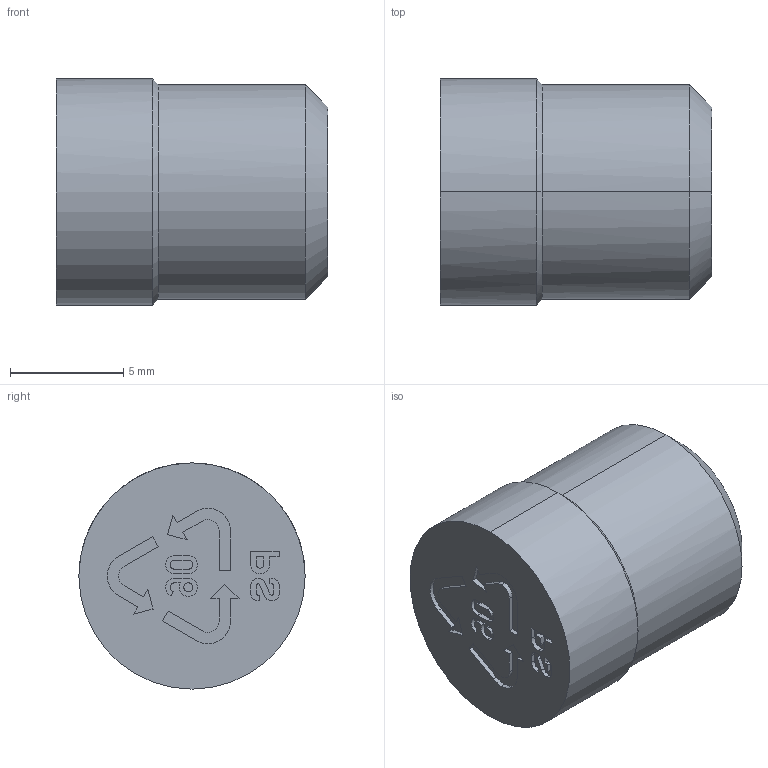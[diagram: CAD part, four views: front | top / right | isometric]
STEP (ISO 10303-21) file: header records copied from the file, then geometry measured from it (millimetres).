
FILE_DESCRIPTION(('CATIA V5 STEP Exchange'),'2;1');
FILE_NAME('C:\Users\Utente\Desktop\IO LAVORO\3D X SITO CF\X SITO\PLASTICA\CFMR\MSO610.stp','2021-03-26T13:38:27+00:00',('none'),('none'),'CATIA Version 5 Release 20 GA (IN-10)','CATIA V5 STEP AP203','none');
FILE_SCHEMA(('CONFIG_CONTROL_DESIGN'));
Length unit declared in the file: millimetre
Products named in the file (1): MSO610
Bounding box: 12 x 10 x 10 mm (x, y, z)
Volume: 811.1 mm3; surface area: 576.2 mm2
Topology: 1 solids, 1 shells, 116 faces, 322 edges, 217 vertices
Faces by surface type: plane 66, cylinder 42, cone 8
Entity records: 3751 total; most frequent: CARTESIAN_POINT 761, ORIENTED_EDGE 640, DIRECTION 537, EDGE_CURVE 320, VERTEX_POINT 217, VECTOR 212, LINE 212, AXIS2_PLACEMENT_3D 210
